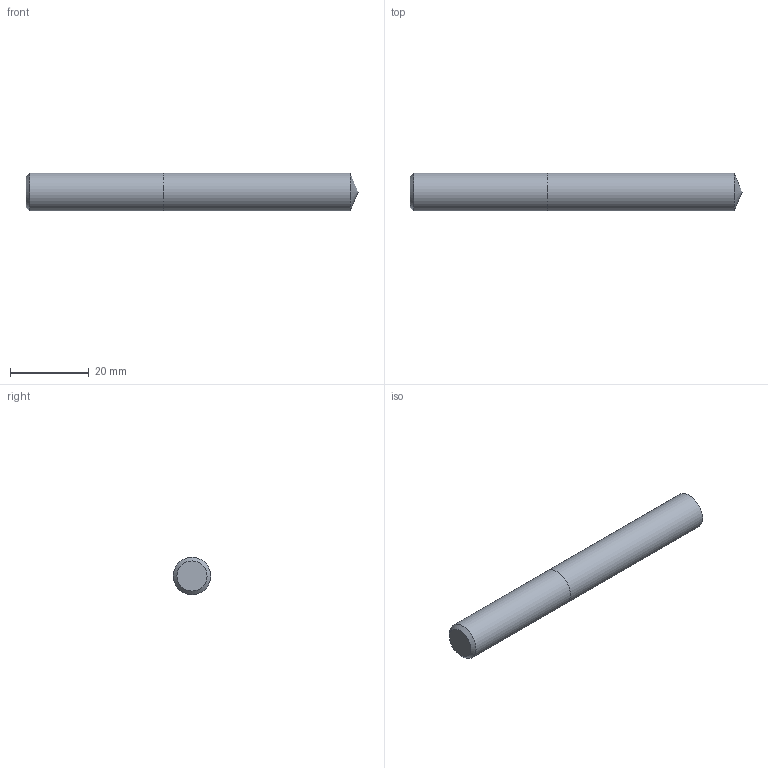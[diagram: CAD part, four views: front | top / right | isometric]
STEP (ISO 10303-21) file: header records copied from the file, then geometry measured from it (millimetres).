
FILE_DESCRIPTION (( 'STEP AP214' ), '1' );
FILE_NAME ('03-2338.STEP', '2022-06-03T06:25:02', ( 'USER' ), ( '' ), 'SwSTEP 2.0', 'SolidWorks 2018', '' );
FILE_SCHEMA (( 'AUTOMOTIVE_DESIGN' ));
Length unit declared in the file: inch
Products named in the file (1): 03-2338
Bounding box: 84.53 x 9.58 x 9.58 mm (x, y, z)
Volume: 5979.8 mm3; surface area: 2759.3 mm2
Topology: 2 solids, 2 shells, 7 faces, 11 edges, 7 vertices
Faces by surface type: plane 3, cylinder 2, cone 2
Full cylindrical faces by diameter (mm): 9.576 x2
Entity records: 214 total; most frequent: DIRECTION 26, CARTESIAN_POINT 18, AXIS2_PLACEMENT_3D 13, EDGE_LOOP 10, ORIENTED_EDGE 10, FACE_OUTER_BOUND 9, DIMENSIONAL_EXPONENTS 7, LENGTH_MEASURE_WITH_UNIT 7
